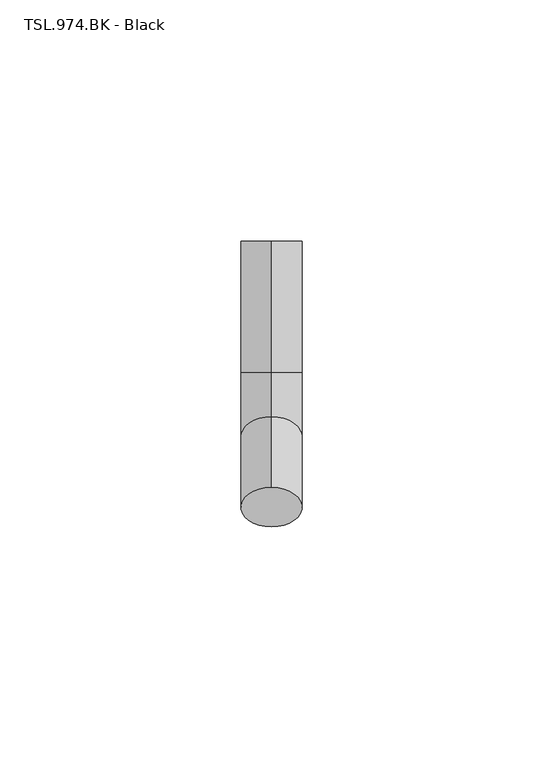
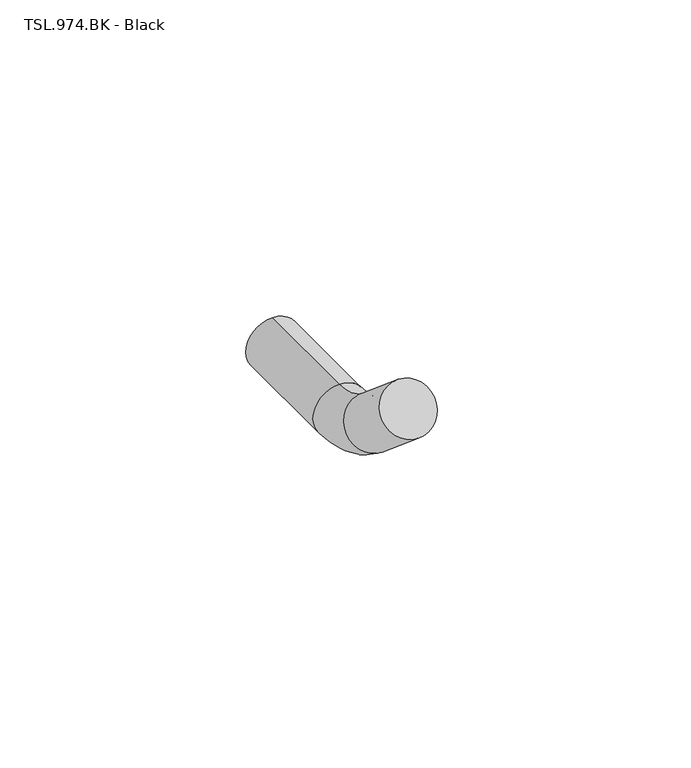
"""IFC4 building model written with IfcOpenShell, lengths in millimetres: proxy geometry, TSL_UK - TSL974 - Coat Hook : TSL.974.BK - Black."""

import ifcopenshell
import ifcopenshell.guid

model = None  # the IFC model being written
_history = None  # IfcOwnerHistory: only IFC2X3 demands one
_inside = {}  # id of a spatial element -> (the spatial element, [elements in it])
_under = {}  # id of a project, library or spatial element -> (it, [spatial elements below it])
_declared = {}  # id of a project -> (the project, [libraries it declares])
_typed = {}  # id of a type object -> (the type object, [elements of that type])
_made_of = {}  # id of a material, layer set ... -> (it, [elements and type objects made of it])


def new_model(schema):
    """Start an empty IFC model of exactly this schema.

    Asked for "IFC4X3", IfcOpenShell would pick the latest addendum, in which some entities
    have other attributes; the version numbers below select the first issue.
    IFC2X3 requires an IfcOwnerHistory on every rooted entity: one is made here for all.
    """
    global model, _history
    if schema == "IFC4X3":
        model = ifcopenshell.file(schema_version=(4, 3, 0, 0))
    else:
        model = ifcopenshell.file(schema=schema)
    _inside.clear()
    _under.clear()
    _declared.clear()
    _typed.clear()
    _made_of.clear()
    _history = None
    if model.schema == "IFC2X3":
        org = make("IfcOrganization", Name="unknown")
        user = make(
            "IfcPersonAndOrganization",
            ThePerson=make("IfcPerson", FamilyName="unknown"),
            TheOrganization=org,
        )
        app = make(
            "IfcApplication",
            ApplicationDeveloper=org,
            Version="unknown",
            ApplicationFullName="unknown",
            ApplicationIdentifier="unknown",
        )
        _history = make(
            "IfcOwnerHistory",
            OwningUser=user,
            OwningApplication=app,
            ChangeAction="ADDED",
            CreationDate=0,
        )
    return model


def make(cls, **values):
    """One entity of the class cls with the attributes given. An attribute that is None is left unset."""
    return model.create_entity(
        cls, **{name: value for name, value in values.items() if value is not None}
    )


def rooted(cls, **values):
    """An entity with a GlobalId (a new one), such as an element, a storey or a relation."""
    return make(cls, GlobalId=ifcopenshell.guid.new(), OwnerHistory=_history, **values)


def si_unit(unit_type, name, prefix=None):
    """IfcSIUnit, for example si_unit("LENGTHUNIT", "METRE", prefix="MILLI")."""
    return make("IfcSIUnit", UnitType=unit_type, Prefix=prefix, Name=name)


def assignment(units):
    """IfcUnitAssignment: the units of a project."""
    return None if units is None else make("IfcUnitAssignment", Units=units)


def point(xyz):
    """IfcCartesianPoint."""
    return None if xyz is None else make("IfcCartesianPoint", Coordinates=xyz)


def direction(xyz):
    """IfcDirection."""
    return None if xyz is None else make("IfcDirection", DirectionRatios=xyz)


def frame(location, z_axis=None, x_axis=None):
    """IfcAxis2Placement3D, a coordinate frame: its origin and axes. An axis left out is left unset."""
    return make(
        "IfcAxis2Placement3D",
        Location=point(location),
        Axis=direction(z_axis),
        RefDirection=direction(x_axis),
    )


def origin():
    """The frame at (0, 0, 0) with its axes left unset."""
    return frame((0.0, 0.0, 0.0))


def place(relative_to, where):
    """IfcLocalPlacement: puts the frame where relative to a parent placement (None: the world)."""
    return make(
        "IfcLocalPlacement", PlacementRelTo=relative_to, RelativePlacement=where
    )


def context(
    kind, dimensions, precision=None, world=None, true_north=None, identifier=None
):
    """IfcGeometricRepresentationContext, for example the 3D "Model" context."""
    return make(
        "IfcGeometricRepresentationContext",
        ContextIdentifier=identifier,
        ContextType=kind,
        CoordinateSpaceDimension=dimensions,
        Precision=precision,
        WorldCoordinateSystem=world,
        TrueNorth=true_north,
    )


def project(units=None, contexts=None):
    """IfcProject with its units and contexts."""
    return rooted(
        "IfcProject",
        Name="project",
        RepresentationContexts=contexts,
        UnitsInContext=assignment(units),
    )


def spatial(cls, under=None, at=None, **own):
    """A site, building, storey or space (cls), placed at a placement, below another one or the project."""
    s = rooted(cls, ObjectPlacement=at, **own)
    if under is not None:
        _under.setdefault(under.id(), (under, []))[1].append(s)
    return s


def circle_curve(where, radius):
    """IfcCircle in the frame where."""
    return make("IfcCircle", Position=where, Radius=radius)


def ellipse_curve(where, semi_axis1, semi_axis2):
    """IfcEllipse in the frame where."""
    return make(
        "IfcEllipse", Position=where, SemiAxis1=semi_axis1, SemiAxis2=semi_axis2
    )


def trimmed(basis, trim1, trim2, sense, master):
    """IfcTrimmedCurve: the piece of a basis curve between two trims."""
    return make(
        "IfcTrimmedCurve",
        BasisCurve=basis,
        Trim1=trim1,
        Trim2=trim2,
        SenseAgreement=sense,
        MasterRepresentation=master,
    )


def shape(context_of_items, identifier, shape_type, items):
    """IfcShapeRepresentation: the items that make up one representation, for example the "Body"."""
    return make(
        "IfcShapeRepresentation",
        ContextOfItems=context_of_items,
        RepresentationIdentifier=identifier,
        RepresentationType=shape_type,
        Items=items,
    )


def source(mapping_origin, context_of_items, identifier, shape_type, items):
    """IfcRepresentationMap: a shape defined once, which mapped items show again and again."""
    return make(
        "IfcRepresentationMap",
        MappingOrigin=mapping_origin,
        MappedRepresentation=shape(context_of_items, identifier, shape_type, items),
    )


def transform(
    local_origin,
    x_axis=None,
    y_axis=None,
    z_axis=None,
    scale=None,
    scale2=None,
    scale3=None,
    uniform=True,
):
    """IfcCartesianTransformationOperator3D, or its non-uniform kind. x_axis, y_axis, z_axis: its Axis1, 2, 3."""
    if uniform:
        return make(
            "IfcCartesianTransformationOperator3D",
            Axis1=direction(x_axis),
            Axis2=direction(y_axis),
            LocalOrigin=point(local_origin),
            Scale=scale,
            Axis3=direction(z_axis),
        )
    return make(
        "IfcCartesianTransformationOperator3DnonUniform",
        Axis1=direction(x_axis),
        Axis2=direction(y_axis),
        LocalOrigin=point(local_origin),
        Scale=scale,
        Axis3=direction(z_axis),
        Scale2=scale2,
        Scale3=scale3,
    )


def mapped(mapping_source, mapping_target):
    """IfcMappedItem: shows the shape of a source again, moved by a transform."""
    return make(
        "IfcMappedItem", MappingSource=mapping_source, MappingTarget=mapping_target
    )


def made_of(thing, what):
    """Note that an element or type object is made of a material, layer set ...; save() writes the relation."""
    if what is not None:
        _made_of.setdefault(what.id(), (what, []))[1].append(thing)
    return thing


def element(
    cls,
    number,
    at=None,
    inside=None,
    cuts=None,
    type_object=None,
    material=None,
    context=None,
    identifier="Body",
    shape_type=None,
    held_by="IfcProductDefinitionShape",
    body=None,
    shapes=None,
    **own,
):
    """One element of the class cls, such as IfcWall. Its Tag is "e" and its number.

    at: its placement. inside: the storey or other place that contains it. cuts: it is an
    opening in that element (IfcRelVoidsElement). A single representation is given by context,
    identifier, shape_type and body (its items); several are given by shapes. held_by: the class
    of the entity that holds the representations. save() writes the other relations.
    """
    e = rooted(cls, Tag="e%d" % number, ObjectPlacement=at, **own)
    if body is not None:
        shapes = [shape(context, identifier, shape_type, body)]
    if shapes is not None:
        e.Representation = make(held_by, Representations=shapes)
    if inside is not None:
        _inside.setdefault(inside.id(), (inside, []))[1].append(e)
    if cuts is not None:
        rooted(
            "IfcRelVoidsElement", RelatingBuildingElement=cuts, RelatedOpeningElement=e
        )
    if type_object is not None:
        _typed.setdefault(type_object.id(), (type_object, []))[1].append(e)
    return made_of(e, material)


def aggregate(whole, parts):
    """IfcRelAggregates: a whole, such as a stair, and the parts it consists of."""
    return rooted("IfcRelAggregates", RelatingObject=whole, RelatedObjects=parts)


def save(model, path):
    """Write the relations noted so far, then the file.

    IfcRelAggregates (storeys below a building ...), IfcRelContainedInSpatialStructure (elements
    in a storey), IfcRelDefinesByType, IfcRelAssociatesMaterial and IfcRelDeclares: one each for
    every whole, place, type object, material and project.
    """
    for whole, parts in _under.values():
        aggregate(whole, parts)
    for where, things in _inside.values():
        rooted(
            "IfcRelContainedInSpatialStructure",
            RelatedElements=things,
            RelatingStructure=where,
        )
    for kind, things in _typed.values():
        rooted("IfcRelDefinesByType", RelatedObjects=things, RelatingType=kind)
    for what, things in _made_of.values():
        rooted("IfcRelAssociatesMaterial", RelatedObjects=things, RelatingMaterial=what)
    for by, libraries in _declared.values():
        rooted("IfcRelDeclares", RelatingContext=by, RelatedDefinitions=libraries)
    model.write(path)


def plane_surface(at):
    """IfcPlane: the flat surface through the origin of the frame at, square to its z axis."""
    return make("IfcPlane", Position=at)


def cylinder_surface(at, radius):
    """IfcCylindricalSurface: all points at the distance radius from the z axis of the frame at."""
    return make("IfcCylindricalSurface", Position=at, Radius=radius)


def revolved_surface(curve, axis_point, axis_direction):
    """IfcSurfaceOfRevolution: the curve turned about the line through axis_point along axis_direction."""
    return make(
        "IfcSurfaceOfRevolution",
        SweptCurve=make("IfcArbitraryOpenProfileDef", ProfileType="CURVE", Curve=curve),
        AxisPosition=make("IfcAxis1Placement", Location=point(axis_point), Axis=direction(axis_direction)),
    )


def advanced_brep(points, edges, surfaces, faces):
    """IfcAdvancedBrep: a solid bounded by faces that lie on surfaces and meet in shared edges.

    An edge is (start, end): straight between two places in points (the first is 0);
    or (start, end, curve); or (start, end, curve, False) where it runs against its curve.
    A face is (place in surfaces, loops), or (place, loops, False) where it looks against
    its surface's normal. A loop lists edges by number (the first is 1), with a minus sign
    where the edge is run from its end to its start. The first loop is the outer one.
    """
    corners = [point(p) for p in points]
    vertices = [make("IfcVertexPoint", VertexGeometry=c) for c in corners]
    made = []
    for start, end, *more in edges:
        made.append(
            make(
                "IfcEdgeCurve",
                EdgeStart=vertices[start],
                EdgeEnd=vertices[end],
                EdgeGeometry=more[0] if more else make("IfcPolyline", Points=[corners[start], corners[end]]),
                SameSense=more[1] if len(more) > 1 else True,
            )
        )
    hull = []
    for where, loops, *sense in faces:
        bounds = []
        for j, loop in enumerate(loops):
            ring = [make("IfcOrientedEdge", EdgeElement=made[abs(k) - 1], Orientation=k > 0) for k in loop]
            bounds.append(
                make(
                    "IfcFaceOuterBound" if j == 0 else "IfcFaceBound",
                    Bound=make("IfcEdgeLoop", EdgeList=ring),
                    Orientation=True,
                )
            )
        hull.append(make("IfcAdvancedFace", Bounds=bounds, FaceSurface=surfaces[where], SameSense=sense[0] if sense else True))
    return make("IfcAdvancedBrep", Outer=make("IfcClosedShell", CfsFaces=hull))


def tsl_974_bk_black_c187cbd4(model_context):
    return source(origin(), model_context, "Body", "AdvancedBrep", [
        advanced_brep(
        [(0.0, 0.0, 1006.35), (0.0, 0.0, 993.65), (0.0, -27.2359833, 1006.35), (0.0, -27.2359833, 993.65), (0.0, -44.5832139, 999.9638756), (0.0, -36.4198113, 1009.69264), (0.0, -51.1308476, 1022.0366652), (0.0, -59.2942502, 1012.3079007)],
        [
            (0, 1, circle_curve(frame((0.0, 0.0, 1000.0), z_axis=(0.0, 1.0, 0.0), x_axis=(0.0, 0.0, -1.0)), 6.35)),
            (1, 0, circle_curve(frame((0.0, 0.0, 1000.0), z_axis=(0.0, 1.0, 0.0), x_axis=(0.0, 0.0, -1.0)), 6.35)),
            (0, 2),
            (2, 3, circle_curve(frame((0.0, -27.2359833, 1000.0), z_axis=(0.0, 1.0, 0.0), x_axis=(0.0, 0.0, -1.0)), 6.35)),
            (3, 1),
            (3, 2, circle_curve(frame((0.0, -27.2359833, 1000.0), z_axis=(0.0, 1.0, 0.0), x_axis=(0.0, 0.0, -1.0)), 6.35)),
            (4, 3, circle_curve(frame((0.0, -27.2359833, 1020.6375), z_axis=(1.0, 0.0, 0.0), x_axis=(0.0, 0.0, -1.0)), 26.9875)),
            (2, 5, circle_curve(frame((0.0, -27.2359833, 1020.6375), z_axis=(-1.0, 0.0, 0.0), x_axis=(0.0, 0.0, -1.0)), 14.2875)),
            (5, 4, circle_curve(frame((0.0, -40.5015126, 1004.8282578), z_axis=(0.0, 0.7660444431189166, -0.6427876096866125), x_axis=(0.0, -0.6427876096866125, -0.7660444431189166)), 6.35)),
            (4, 5, circle_curve(frame((0.0, -40.5015126, 1004.8282578), z_axis=(0.0, 0.7660444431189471, -0.6427876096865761), x_axis=(0.0, -0.6427876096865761, -0.7660444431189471)), 6.35)),
            (6, 7, circle_curve(frame((0.0, -55.2125489, 1017.1722829), z_axis=(0.0, -0.7660444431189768, 0.6427876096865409), x_axis=(0.0, -0.6427876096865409, -0.7660444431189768)), 6.35)),
            (7, 6, circle_curve(frame((0.0, -55.2125489, 1017.1722829), z_axis=(0.0, -0.7660444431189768, 0.6427876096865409), x_axis=(0.0, -0.6427876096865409, -0.7660444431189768)), 6.35)),
            (5, 6),
            (7, 4),
        ],
        [
            plane_surface(frame((0.0, 0.0, 1000.0), z_axis=(0.0, 1.0, 0.0), x_axis=(1.0, 0.0, 0.0))),
            cylinder_surface(frame((0.0, 0.0, 1000.0), z_axis=(0.0, 1.0, 0.0), x_axis=(0.0, 0.0, -1.0)), 6.35),
            revolved_surface(trimmed(ellipse_curve(frame((0.0, -27.2359833, 1000.0), z_axis=(0.0, 1.0, 0.0), x_axis=(0.0, 0.0, -1.0)), 6.35, 6.35), [point((0.0, -27.2359833, 1006.35))], [point((0.0, -27.2359833, 993.65))], True, "CARTESIAN"), (0.0, -27.2359833, 1020.6375), (-1.0, 0.0, 0.0)),
            revolved_surface(trimmed(ellipse_curve(frame((0.0, -27.2359833, 1000.0), z_axis=(0.0, 1.0, 0.0), x_axis=(0.0, 0.0, -1.0)), 6.35, 6.35), [point((0.0, -27.2359833, 993.65))], [point((0.0, -27.2359833, 1006.35))], True, "CARTESIAN"), (0.0, -27.2359833, 1020.6375), (-1.0, 0.0, 0.0)),
            plane_surface(frame((0.0, -55.2125489, 1017.1722829), z_axis=(0.0, -0.7660444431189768, 0.6427876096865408), x_axis=(1.0, 0.0, 0.0))),
            cylinder_surface(frame((0.0, -40.5015126, 1004.8282578), z_axis=(0.0, 0.7660444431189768, -0.6427876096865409), x_axis=(0.0, -0.6427876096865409, -0.7660444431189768)), 6.35),
        ],
        [
            (0, [[1, 2]]),
            (1, [[-1, 3, 4, 5]]),
            (1, [[-2, -5, 6, -3]]),
            (2, [[7, -4, 8, 9]]),
            (3, [[-8, -6, -7, 10]]),
            (4, [[11, 12]]),
            (5, [[-9, 13, -12, 14]]),
            (5, [[-10, -14, -11, -13]]),
        ],
    ),
    ])


if __name__ == "__main__":
    model = new_model("IFC4")
    model_context = context("Model", 3, world=origin())
    ifc_project = project(units=[si_unit("LENGTHUNIT", "METRE", prefix="MILLI")], contexts=[model_context])
    site = spatial("IfcSite", under=ifc_project)
    building = spatial("IfcBuilding", under=site)
    placement = place(None, origin())
    tsl_974_bk_black_shape = tsl_974_bk_black_c187cbd4(model_context)
    element("IfcBuildingElementProxy", 1, Name="TSL_UK - TSL974 - Coat Hook : TSL.974.BK - Black", ObjectType="TSL_UK - TSL974 - Coat Hook : TSL.974.BK - Black", at=placement, inside=building, context=model_context, shape_type="MappedRepresentation", body=[
        mapped(tsl_974_bk_black_shape, transform((0.0, 0.0, 0.0), x_axis=(1.0, 0.0, 0.0), y_axis=(0.0, 1.0, 0.0), z_axis=(0.0, 0.0, 1.0))),
    ])
    save(model, "model.ifc")
